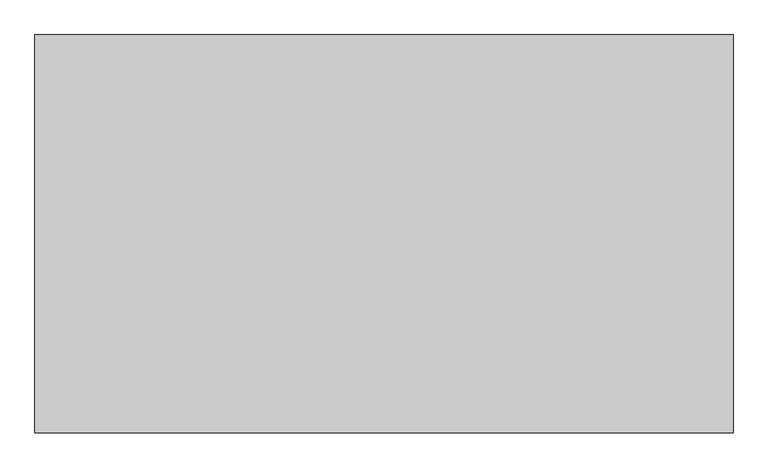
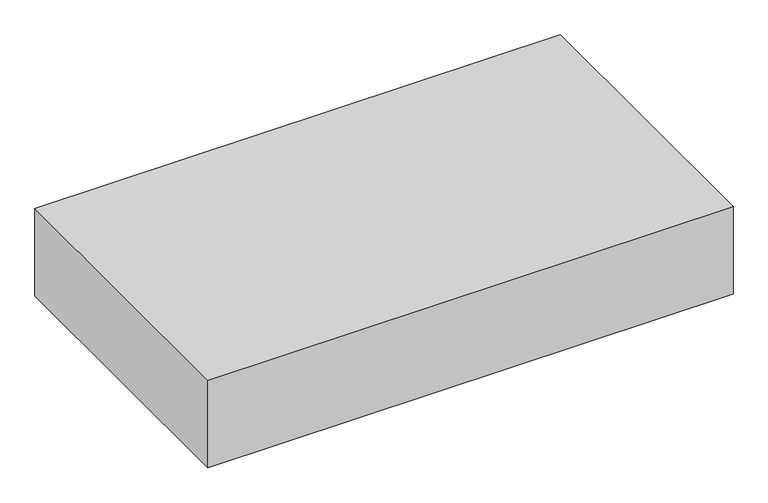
"""IFC4 building model written with IfcOpenShell, lengths in millimetres: proxy geometry, 機械基礎(衛生) : 機械基礎(衛生)."""

from ifc_helpers import new_model, si_unit, origin, origin_with_axes, place, context, project, spatial, polyline, outline, extrude, source, transform, mapped, element, save


def specialty_equipment_af38feda(model_context):
    return source(origin(), model_context, "Body", "SweptSolid", [
        extrude(outline(polyline([(1050.0, -650.0), (-650.0, -650.0), (-650.0, 320.0), (1050.0, 320.0), (1050.0, -650.0)])), origin_with_axes(), (0.0, 0.0, 1.0), 300.0),
    ])


if __name__ == "__main__":
    model = new_model("IFC4")
    model_context = context("Model", 3, world=origin())
    ifc_project = project(units=[si_unit("LENGTHUNIT", "METRE", prefix="MILLI")], contexts=[model_context])
    site = spatial("IfcSite", under=ifc_project)
    building = spatial("IfcBuilding", under=site)
    placement = place(None, origin())
    specialty_equipment_shape = specialty_equipment_af38feda(model_context)
    element("IfcBuildingElementProxy", 1, Name="機械基礎(衛生) : 機械基礎(衛生)", ObjectType="機械基礎(衛生) : 機械基礎(衛生)", at=placement, inside=building, context=model_context, shape_type="MappedRepresentation", body=[
        mapped(specialty_equipment_shape, transform((0.0, 0.0, 0.0), x_axis=(1.0, 0.0, 0.0), y_axis=(0.0, 1.0, 0.0), z_axis=(0.0, 0.0, 1.0))),
    ])
    save(model, "model.ifc")
